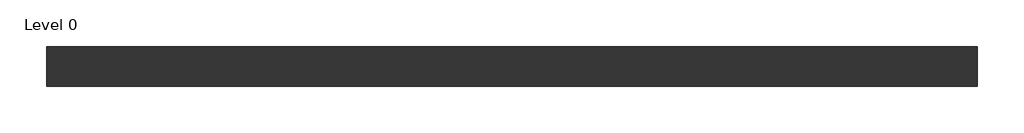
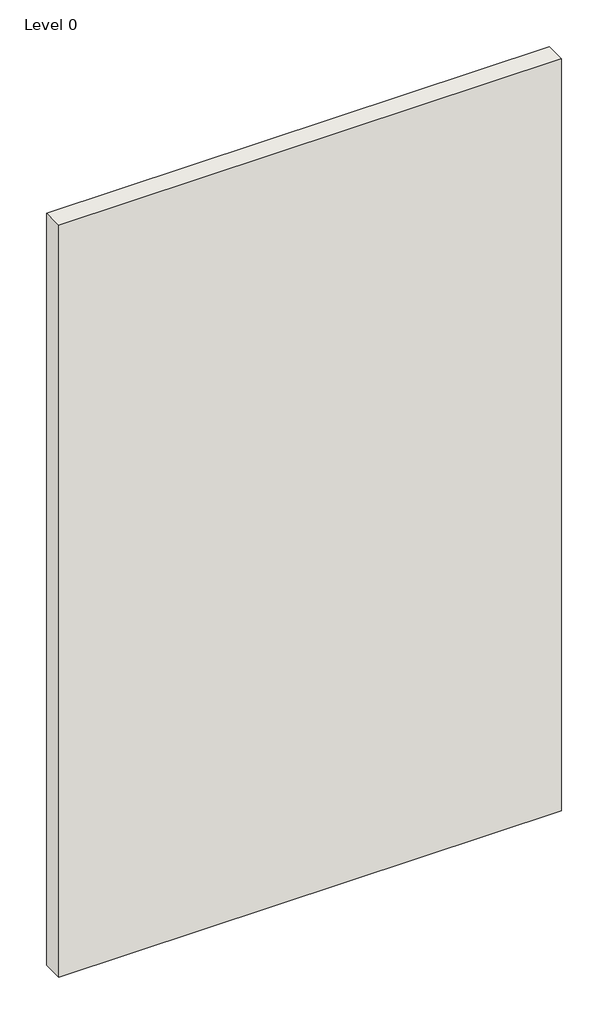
# One storey: 1 wall.
"""IFC4 building model written with IfcOpenShell, lengths in millimetres."""

from ifc_helpers import new_model, si_unit, origin, origin_with_axes, place, context, project, spatial, polyline, outline, extrude, element, save

model = new_model("IFC4")

# Units and contexts
model_context = context("Model", 3, world=origin())
ifc_project = project(units=[si_unit("LENGTHUNIT", "METRE", prefix="MILLI")], contexts=[model_context])

# Site, building, storey
site = spatial("IfcSite", under=ifc_project)
building = spatial("IfcBuilding", under=site)
storey = spatial("IfcBuildingStorey", under=building, Name="Level 0", Elevation=0.0)

# Wall
placement = place(None, origin())
element("IfcWall", 1, ObjectType="A233023 - GypWall Staggered", at=placement, inside=storey, context=model_context, shape_type="SweptSolid", body=[
    extrude(outline(polyline([(1155.997948, 489.2669953), (-1944.002052, 489.2669953), (-1944.002052, 621.2669953), (1155.997948, 621.2669953), (1155.997948, 489.2669953)])), origin_with_axes(), (0.0, 0.0, 1.0), 4900.0),
])

save(model, "model.ifc")
